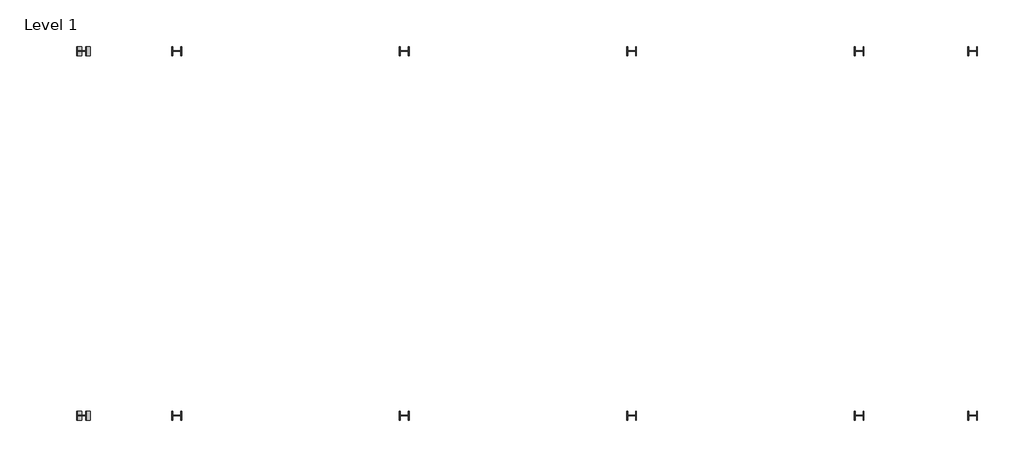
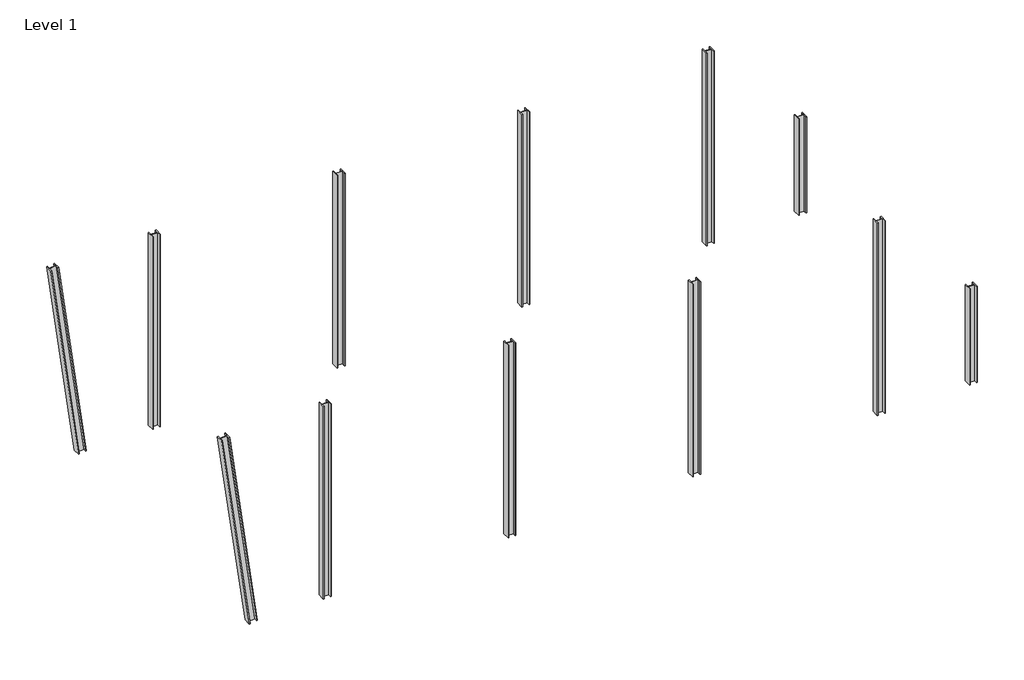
# One storey: 12 columns.
"""IFC4 building model written with IfcOpenShell, lengths in millimetres."""

from ifc_helpers import new_model, si_unit, frame, origin, origin_with_axes, place, context, project, spatial, polyline, outline, extrude, element, save

model = new_model("IFC4")

# Units and contexts
model_context = context("Model", 3, world=origin())
ifc_project = project(units=[si_unit("LENGTHUNIT", "METRE", prefix="MILLI")], contexts=[model_context])

# Site, building, storey
site = spatial("IfcSite", under=ifc_project)
building = spatial("IfcBuilding", under=site)
storey = spatial("IfcBuildingStorey", under=building, Name="Level 1", Elevation=0.0)

# Columns
placement = place(None, origin())
element("IfcColumn", 1, ObjectType="WC-Welded Columns-Column (AS 3679_2) : 400WC328", at=placement, inside=storey, context=model_context, shape_type="SweptSolid", body=[
    extrude(outline(polyline([(399.9999999, 0.0), (399.9999999, -40.0), (213.9999999, -40.0), (213.9999999, -389.9999999), (399.9999999, -390.0), (399.9999999, -430.0), (0.0, -429.9999999), (0.0, -390.0), (186.0, -390.0), (186.0, -40.0), (0.0, -40.0), (0.0, 0.0), (399.9999999, 0.0)])), frame((2421.9729704, 1164.9984198, -29.0491404), z_axis=(-0.13511320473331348, 0.0, 0.9908301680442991), x_axis=(-7.282601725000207e-06, 0.9999999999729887, -9.93082053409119e-07)), (0.0, 0.0, 1.0), 11101.8016556),
])
element("IfcColumn", 2, ObjectType="WC-Welded Columns-Column (AS 3679_2) : 400WC328", at=placement, inside=storey, context=model_context, shape_type="SweptSolid", body=[
    extrude(outline(polyline([(6419.999266, 1564.9992109), (6459.999266, 1564.9993577), (6459.9999486, 1378.9993577), (6809.9999486, 1379.0006422), (6809.999266, 1565.0006422), (6849.999266, 1565.000789), (6850.000734, 1165.0007891), (6810.000734, 1165.0006423), (6810.0000514, 1351.0006423), (6460.0000514, 1350.9993578), (6460.000734, 1164.9993578), (6420.000734, 1164.999211), (6419.999266, 1564.9992109)])), origin_with_axes(), (0.0, 0.0, 1.0), 11000.0),
])
element("IfcColumn", 3, ObjectType="WC-Welded Columns-Column (AS 3679_2) : 400WC328", at=placement, inside=storey, context=model_context, shape_type="SweptSolid", body=[
    extrude(outline(polyline([(16402.199266, -14435.0007891), (16442.199266, -14435.0006423), (16442.1999486, -14621.0006423), (16792.1999486, -14620.9993578), (16792.199266, -14434.9993578), (16832.199266, -14434.999211), (16832.200734, -14834.9992109), (16792.200734, -14834.9993577), (16792.2000514, -14648.9993577), (16442.2000514, -14649.0006422), (16442.200734, -14835.0006422), (16402.200734, -14835.000789), (16402.199266, -14435.0007891)])), origin_with_axes(), (0.0, 0.0, 1.0), 11000.0),
])
element("IfcColumn", 4, ObjectType="WC-Welded Columns-Column (AS 3679_2) : 400WC328", at=placement, inside=storey, context=model_context, shape_type="SweptSolid", body=[
    extrude(outline(polyline([(16402.199266, 1564.9992109), (16442.199266, 1564.9993577), (16442.1999486, 1378.9993577), (16792.1999486, 1379.0006422), (16792.199266, 1565.0006422), (16832.199266, 1565.000789), (16832.200734, 1165.0007891), (16792.200734, 1165.0006423), (16792.2000514, 1351.0006423), (16442.2000514, 1350.9993578), (16442.200734, 1164.9993578), (16402.200734, 1164.999211), (16402.199266, 1564.9992109)])), origin_with_axes(), (0.0, 0.0, 1.0), 11000.0),
])
element("IfcColumn", 5, ObjectType="WC-Welded Columns-Column (AS 3679_2) : 400WC328", at=placement, inside=storey, context=model_context, shape_type="SweptSolid", body=[
    extrude(outline(polyline([(26384.399266, -14435.0007891), (26424.399266, -14435.0006423), (26424.3999486, -14621.0006423), (26774.3999486, -14620.9993578), (26774.399266, -14434.9993578), (26814.399266, -14434.999211), (26814.400734, -14834.9992109), (26774.400734, -14834.9993577), (26774.4000514, -14648.9993577), (26424.4000514, -14649.0006422), (26424.400734, -14835.0006422), (26384.400734, -14835.000789), (26384.399266, -14435.0007891)])), origin_with_axes(), (0.0, 0.0, 1.0), 11000.0),
])
element("IfcColumn", 6, ObjectType="WC-Welded Columns-Column (AS 3679_2) : 400WC328", at=placement, inside=storey, context=model_context, shape_type="SweptSolid", body=[
    extrude(outline(polyline([(26384.399266, 1564.9992109), (26424.399266, 1564.9993577), (26424.3999486, 1378.9993577), (26774.3999486, 1379.0006422), (26774.399266, 1565.0006422), (26814.399266, 1565.000789), (26814.400734, 1165.0007891), (26774.400734, 1165.0006423), (26774.4000514, 1351.0006423), (26424.4000514, 1350.9993578), (26424.400734, 1164.9993578), (26384.400734, 1164.999211), (26384.399266, 1564.9992109)])), origin_with_axes(), (0.0, 0.0, 1.0), 11000.0),
])
element("IfcColumn", 7, ObjectType="WC-Welded Columns-Column (AS 3679_2) : 400WC328", at=placement, inside=storey, context=model_context, shape_type="SweptSolid", body=[
    extrude(outline(polyline([(36366.599266, -14435.0007891), (36406.599266, -14435.0006423), (36406.5999486, -14621.0006423), (36756.5999486, -14620.9993578), (36756.599266, -14434.9993578), (36796.599266, -14434.999211), (36796.600734, -14834.9992109), (36756.600734, -14834.9993577), (36756.6000514, -14648.9993577), (36406.6000514, -14649.0006422), (36406.600734, -14835.0006422), (36366.600734, -14835.000789), (36366.599266, -14435.0007891)])), origin_with_axes(), (0.0, 0.0, 1.0), 11000.0),
])
element("IfcColumn", 8, ObjectType="WC-Welded Columns-Column (AS 3679_2) : 400WC328", at=placement, inside=storey, context=model_context, shape_type="SweptSolid", body=[
    extrude(outline(polyline([(36366.599266, 1564.9992109), (36406.599266, 1564.9993577), (36406.5999486, 1378.9993577), (36756.5999486, 1379.0006422), (36756.599266, 1565.0006422), (36796.599266, 1565.000789), (36796.600734, 1165.0007891), (36756.600734, 1165.0006423), (36756.6000514, 1351.0006423), (36406.6000514, 1350.9993578), (36406.600734, 1164.9993578), (36366.600734, 1164.999211), (36366.599266, 1564.9992109)])), origin_with_axes(), (0.0, 0.0, 1.0), 11000.0),
])
element("IfcColumn", 9, ObjectType="WC-Welded Columns-Column (AS 3679_2) : 400WC328", at=placement, inside=storey, context=model_context, shape_type="SweptSolid", body=[
    extrude(outline(polyline([(41348.799266, -14435.0007891), (41388.799266, -14435.0006423), (41388.7999486, -14621.0006423), (41738.7999486, -14620.9993578), (41738.799266, -14434.9993578), (41778.799266, -14434.999211), (41778.800734, -14834.9992109), (41738.800734, -14834.9993577), (41738.8000514, -14648.9993577), (41388.8000514, -14649.0006422), (41388.800734, -14835.0006422), (41348.800734, -14835.000789), (41348.799266, -14435.0007891)])), origin_with_axes(), (0.0, 0.0, 1.0), 5500.0),
])
element("IfcColumn", 10, ObjectType="WC-Welded Columns-Column (AS 3679_2) : 400WC328", at=placement, inside=storey, context=model_context, shape_type="SweptSolid", body=[
    extrude(outline(polyline([(41348.799266, 1564.9992109), (41388.799266, 1564.9993577), (41388.7999486, 1378.9993577), (41738.7999486, 1379.0006422), (41738.799266, 1565.0006422), (41778.799266, 1565.000789), (41778.800734, 1165.0007891), (41738.800734, 1165.0006423), (41738.8000514, 1351.0006423), (41388.8000514, 1350.9993578), (41388.800734, 1164.9993578), (41348.800734, 1164.999211), (41348.799266, 1564.9992109)])), origin_with_axes(), (0.0, 0.0, 1.0), 5500.0),
])
element("IfcColumn", 11, ObjectType="WC-Welded Columns-Column (AS 3679_2) : 400WC328", at=placement, inside=storey, context=model_context, shape_type="SweptSolid", body=[
    extrude(outline(polyline([(399.9999999, 0.0), (399.9999999, -40.0), (213.9999999, -40.0), (213.9999999, -389.9999999), (399.9999999, -390.0), (399.9999999, -430.0), (0.0, -429.9999999), (0.0, -390.0), (186.0, -390.0), (186.0, -40.0), (0.0, -40.0), (0.0, 0.0), (399.9999999, 0.0)])), frame((2421.9729704, -14835.0015802, -29.0491404), z_axis=(-0.13511320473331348, 0.0, 0.9908301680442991), x_axis=(-7.282601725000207e-06, 0.9999999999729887, -9.93082053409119e-07)), (0.0, 0.0, 1.0), 11101.8016556),
])
element("IfcColumn", 12, ObjectType="WC-Welded Columns-Column (AS 3679_2) : 400WC328", at=placement, inside=storey, context=model_context, shape_type="SweptSolid", body=[
    extrude(outline(polyline([(6419.999266, -14435.0007891), (6459.999266, -14435.0006423), (6459.9999486, -14621.0006423), (6809.9999486, -14620.9993578), (6809.999266, -14434.9993578), (6849.999266, -14434.999211), (6850.000734, -14834.9992109), (6810.000734, -14834.9993577), (6810.0000514, -14648.9993577), (6460.0000514, -14649.0006422), (6460.000734, -14835.0006422), (6420.000734, -14835.000789), (6419.999266, -14435.0007891)])), origin_with_axes(), (0.0, 0.0, 1.0), 11000.0),
])

save(model, "model.ifc")
